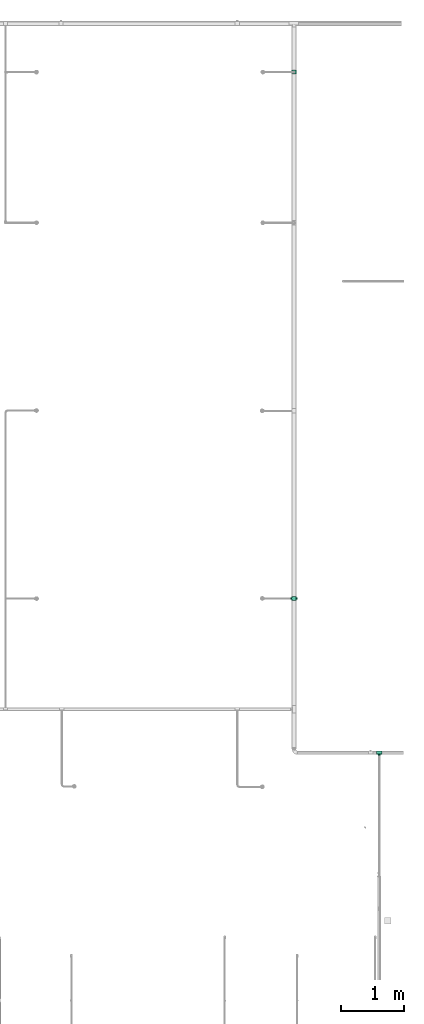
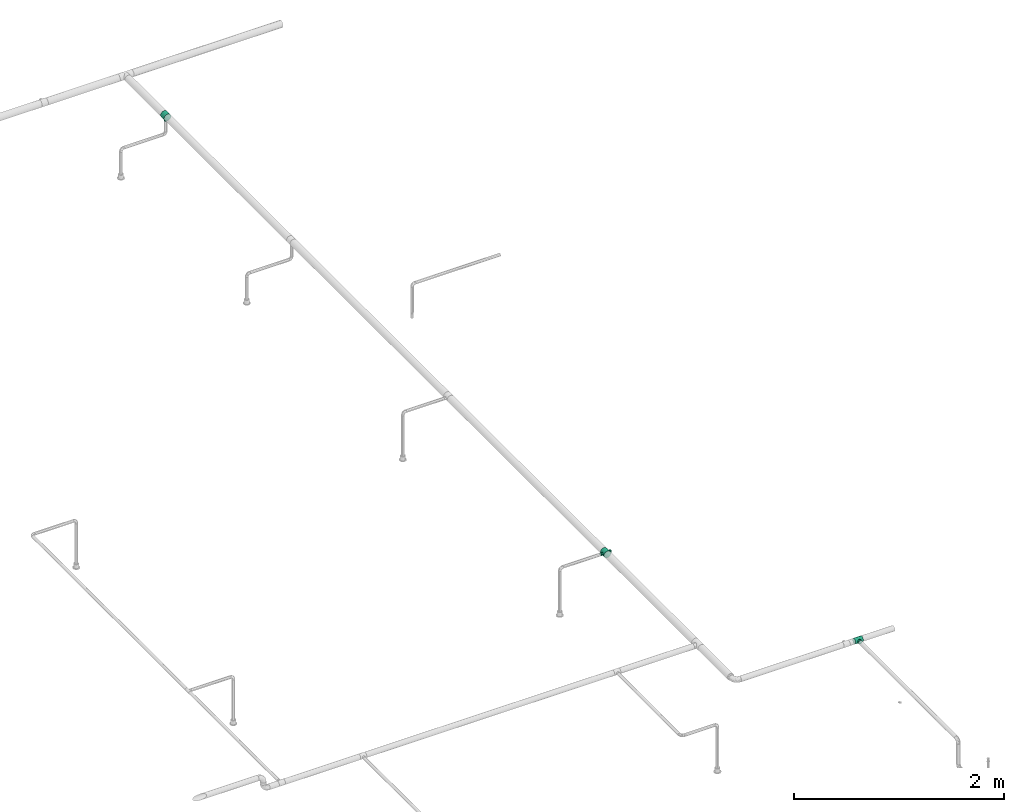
# One storey, part 88 of 95: 3 flow fittings.
"""IFC2X3 building model written with IfcOpenShell, lengths in millimetres."""

from ifc_helpers import new_model, entity, si_unit, converted_unit, derived_unit, direction, frame, origin_with_axes, place, context, subcontext, project, spatial, open_shell, surface_model, source, transform, mapped, type_object, element, save


model = new_model("IFC2X3")

# Units and contexts
model_context = context("Model", 3, precision=0.01, world=frame((0.0, 4.29681676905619e-09, 0.0)), true_north=direction((4.01073788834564e-13, 1.0)))
plan_context = context("Plan", 3, precision=0.01, world=frame((0.0, 4.29681676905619e-09, 0.0)), true_north=direction((4.01073788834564e-13, 1.0)))
body_context = subcontext(model_context, "Body", "Model", "MODEL_VIEW")
ifc_project = project(units=[converted_unit("PLANEANGLEUNIT", "DEGREE", entity("IfcPositiveLengthMeasure", 0.0174532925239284), si_unit("PLANEANGLEUNIT", "RADIAN"), dimensions=[0, 0, 0, 0, 0, 0, 0]), si_unit("AREAUNIT", "SQUARE_METRE"), si_unit("LENGTHUNIT", "METRE", prefix="MILLI"), si_unit("MASSUNIT", "GRAM", prefix="KILO"), si_unit("POWERUNIT", "WATT"), si_unit("PRESSUREUNIT", "PASCAL"), si_unit("FORCEUNIT", "NEWTON", prefix="KILO"), si_unit("ELECTRICVOLTAGEUNIT", "VOLT"), si_unit("ELECTRICCURRENTUNIT", "AMPERE"), si_unit("THERMODYNAMICTEMPERATUREUNIT", "DEGREE_CELSIUS"), si_unit("TIMEUNIT", "SECOND"), si_unit("VOLUMEUNIT", "CUBIC_METRE"), derived_unit("LINEARVELOCITYUNIT", [(si_unit("LENGTHUNIT", "METRE"), 1), (si_unit("TIMEUNIT", "SECOND"), -1)]), derived_unit("VOLUMETRICFLOWRATEUNIT", [(si_unit("VOLUMEUNIT", "CUBIC_METRE"), 1), (si_unit("TIMEUNIT", "SECOND"), -1)]), derived_unit("THERMALTRANSMITTANCEUNIT", [(si_unit("POWERUNIT", "WATT"), 1), (si_unit("THERMODYNAMICTEMPERATUREUNIT", "KELVIN"), -1), (si_unit("AREAUNIT", "SQUARE_METRE"), -1)]), derived_unit("SOUNDPRESSUREUNIT", [(si_unit("PRESSUREUNIT", "PASCAL"), 1)])], contexts=[model_context, plan_context])

# Site, building, storey
site_placement = place(None, frame((0.0, -4.29681676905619e-09, 0.0), z_axis=(0.0, 0.0, 1.0), x_axis=(1.0, 0.0, 0.0)))
site = spatial("IfcSite", under=ifc_project, at=site_placement, CompositionType="ELEMENT")
building_placement = place(site_placement, frame((0.0, 4.29681676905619e-09, 0.0), z_axis=(0.0, 0.0, 1.0), x_axis=(1.0, 0.0, 0.0)))
building = spatial("IfcBuilding", under=site, at=building_placement, Name="mc-building", CompositionType="ELEMENT")
storey_placement = place(building_placement, frame((0.0, 0.0, 210900.0), z_axis=(0.0, 0.0, 1.0), x_axis=(1.0, 0.0, 0.0)))
storey = spatial("IfcBuildingStorey", under=building, at=storey_placement, Name="Nivå F", CompositionType="ELEMENT", Elevation=210900.0)

# Flow fittings
pipe_fitting_type_1 = type_object("IfcPipeFittingType", Name="magi_pipe_fe_tee_centric_90_NOR", PredefinedType="JUNCTION")
shared_shape_1 = source(origin_with_axes(), body_context, "Body", "SurfaceModel", [
    surface_model("IfcShellBasedSurfaceModel", [(33.8, 37.45089, 4.9305), (33.8, 38.1, 0.0), (16.9, 38.1, 0.0), (-33.8, 37.45089, 4.9305), (-16.9, 38.1, 0.0), (-33.8, 38.1, 0.0), (-33.8, -26.94077, -26.94077), (-33.8, -19.05, -32.99557), (33.8, -19.05, -32.99557), (-33.8, -36.80177, -9.86101), (-33.8, 0.0, -38.1), (-33.8, -9.86101, -36.80177), (-33.8, -32.99557, -19.05), (-33.8, 9.86101, -36.80177), (-33.8, 26.94077, -26.94077), (-33.8, 19.05, -32.99557), (-33.8, 32.99557, -19.05), (-33.8, 36.80177, -9.86101), (-33.8, -19.05, 32.99557), (-33.8, -36.80177, 9.86101), (-33.8, -32.99557, 19.05), (-33.8, 0.0, 38.1), (-33.8, -26.94077, 26.94077), (-33.8, -9.86101, 36.80177), (-33.8, 32.99557, 19.05), (-33.8, 26.94077, 26.94077), (-33.8, 36.80177, 9.86101), (-33.8, 19.05, 32.99557), (-33.8, 9.86101, 36.80177), (-33.8, -38.1, 0.0), (33.8, -9.86101, -36.80177), (33.8, 0.0, -38.1), (33.8, -26.94077, -26.94077), (33.8, -36.80177, -9.86101), (33.8, -32.99557, -19.05), (33.8, -19.05, 32.99557), (33.8, 19.05, -32.99557), (33.8, 26.94077, -26.94077), (33.8, 9.86101, -36.80177), (33.8, 36.80177, -9.86101), (33.8, 32.99557, -19.05), (33.8, -32.99557, 19.05), (33.8, -36.80177, 9.86101), (33.8, 0.0, 38.1), (33.8, -26.94077, 26.94077), (33.8, -9.86101, 36.80177), (33.8, 32.99557, 19.05), (33.8, 26.94077, 26.94077), (33.8, 36.80177, 9.86101), (33.8, 9.86101, 36.80177), (33.8, 19.05, 32.99557), (33.8, -38.1, 0.0), (15.86072, 37.65053, 5.83504), (12.92726, 36.51183, 10.88559), (2.96752, 34.27545, 16.63742), (-15.8612, 37.65073, 5.83372), (33.8, 34.89867, 14.4555), (8.48894, 35.18611, 14.61328), (-12.9317, 36.51341, 10.88031), (-2.97221, 34.27585, 16.63658), (-8.4904, 35.18646, 14.61243), (-33.8, 34.89867, 14.4555), (33.8, 37.45089, -4.9305), (15.86072, 37.65053, -5.83504), (-15.8612, 37.65073, -5.83372), (-33.8, 37.45089, -4.9305), (33.8, 34.89867, -14.4555), (8.48894, 35.18611, -14.61328), (2.96752, 34.27545, -16.63742), (-8.4904, 35.18646, -14.61243), (-33.8, 34.89867, -14.4555), (-12.9317, 36.51341, -10.88031), (12.92726, 36.51183, -10.88559), (-2.97221, 34.27585, -16.63658), (0.0, 57.15, -16.9), (-16.9, 57.15, 0.0), (4.37404, 57.15, -16.32415), (8.45, 57.15, -14.63583), (14.63583, 57.15, -8.45), (16.32415, 57.15, -4.37404), (11.9501, 57.15, -11.9501), (16.9, 57.15, 0.0), (-11.9501, 57.15, -11.9501), (-14.63583, 57.15, -8.45), (-8.45, 57.15, -14.63583), (-4.37404, 57.15, -16.32415), (-16.32415, 57.15, -4.37404), (16.32415, 57.15, 4.37404), (8.45, 57.15, 14.63583), (14.63583, 57.15, 8.45), (-8.45, 57.15, 14.63583), (11.9501, 57.15, 11.9501), (4.37404, 57.15, 16.32415), (-14.63583, 57.15, 8.45), (-11.9501, 57.15, 11.9501), (-16.32415, 57.15, 4.37404), (-4.37404, 57.15, 16.32415), (0.0, 57.15, 16.9), (-16.3806, 37.87537, 2.91686), (-5.7313, 34.73116, 15.62451), (-0.00235, 34.27565, 16.637), (5.72823, 34.73078, 15.62535), (16.38036, 37.87526, 2.91752), (16.38036, 37.87526, -2.91752), (5.72823, 34.73078, -15.62535), (-0.00235, 34.27565, -16.637), (-5.7313, 34.73116, -15.62451), (-16.3806, 37.87537, -2.91686)], [open_shell([[[0, 1, 2]], [[3, 4, 5]], [[6, 7, 8]], [[9, 10, 11]], [[9, 11, 7]], [[6, 12, 9]], [[6, 9, 7]], [[10, 9, 5]], [[13, 14, 15]], [[13, 10, 14]], [[16, 5, 17]], [[5, 16, 14]], [[10, 5, 14]], [[9, 18, 5]], [[9, 19, 18]], [[18, 19, 20]], [[18, 21, 5]], [[18, 20, 22]], [[21, 18, 23]], [[24, 21, 25]], [[26, 5, 24]], [[27, 21, 28]], [[21, 27, 25]], [[21, 24, 5]], [[19, 9, 29]], [[8, 30, 31]], [[32, 8, 31]], [[33, 34, 32]], [[1, 32, 31]], [[32, 1, 35]], [[36, 37, 38]], [[1, 38, 37]], [[39, 1, 40]], [[37, 40, 1]], [[1, 31, 38]], [[35, 33, 32]], [[33, 41, 42]], [[35, 41, 33]], [[1, 43, 35]], [[44, 41, 35]], [[45, 35, 43]], [[46, 47, 1]], [[46, 1, 48]], [[49, 43, 50]], [[1, 47, 50]], [[50, 43, 1]], [[51, 33, 42]], [[52, 48, 0]], [[52, 53, 48]], [[54, 47, 46]], [[3, 26, 55]], [[53, 56, 48]], [[46, 57, 54]], [[54, 25, 47]], [[46, 56, 57]], [[57, 56, 53]], [[4, 3, 55]], [[26, 58, 55]], [[24, 59, 60]], [[61, 24, 60]], [[61, 58, 26]], [[25, 59, 24]], [[60, 58, 61]], [[25, 54, 59]], [[52, 0, 2]], [[25, 27, 47]], [[43, 49, 21]], [[49, 50, 28]], [[45, 43, 23]], [[19, 42, 41]], [[44, 35, 22]], [[41, 44, 20]], [[18, 35, 45]], [[51, 42, 29]], [[28, 50, 27]], [[21, 49, 28]], [[43, 21, 23]], [[23, 18, 45]], [[22, 35, 18]], [[44, 22, 20]], [[41, 20, 19]], [[19, 29, 42]], [[47, 27, 50]], [[33, 51, 29]], [[9, 34, 33]], [[62, 39, 63]], [[34, 12, 32]], [[38, 31, 13]], [[30, 8, 11]], [[64, 65, 4]], [[30, 10, 31]], [[15, 36, 38]], [[6, 8, 32]], [[66, 40, 67]], [[34, 9, 12]], [[9, 33, 29]], [[12, 6, 32]], [[11, 8, 7]], [[10, 30, 11]], [[31, 10, 13]], [[13, 15, 38]], [[15, 14, 36]], [[68, 40, 37]], [[69, 70, 71]], [[40, 68, 67]], [[66, 72, 39]], [[14, 68, 37]], [[62, 2, 1]], [[39, 72, 63]], [[2, 62, 63]], [[66, 67, 72]], [[16, 69, 73]], [[73, 14, 16]], [[16, 70, 69]], [[68, 14, 73]], [[17, 64, 71]], [[17, 65, 64]], [[5, 4, 65]], [[71, 70, 17]], [[36, 14, 37]], [[74, 75, 76]], [[77, 76, 78]], [[76, 79, 78]], [[80, 77, 78]], [[76, 75, 81]], [[82, 83, 84]], [[74, 85, 84]], [[86, 75, 83]], [[84, 83, 75]], [[84, 75, 74]], [[81, 79, 76]], [[87, 81, 88]], [[89, 87, 88]], [[90, 88, 81]], [[91, 89, 88]], [[92, 88, 90]], [[93, 94, 95]], [[90, 95, 94]], [[96, 97, 90]], [[90, 75, 95]], [[90, 97, 92]], [[81, 75, 90]], [[75, 98, 95]], [[94, 93, 58]], [[55, 93, 95]], [[60, 90, 94]], [[75, 4, 98]], [[58, 93, 55]], [[99, 59, 96]], [[94, 58, 60]], [[100, 54, 97]], [[92, 101, 88]], [[96, 90, 99]], [[90, 60, 99]], [[98, 55, 95]], [[97, 54, 92]], [[87, 89, 52]], [[2, 81, 102]], [[87, 52, 102]], [[53, 89, 91]], [[96, 59, 97]], [[92, 54, 101]], [[101, 57, 88]], [[57, 91, 88]], [[53, 91, 57]], [[52, 89, 53]], [[87, 102, 81]], [[97, 59, 100]], [[81, 103, 79]], [[80, 78, 72]], [[63, 78, 79]], [[67, 77, 80]], [[81, 2, 103]], [[72, 78, 63]], [[104, 68, 76]], [[80, 72, 67]], [[105, 73, 74]], [[85, 106, 84]], [[4, 75, 107]], [[76, 77, 104]], [[77, 67, 104]], [[82, 84, 69]], [[103, 63, 79]], [[86, 83, 64]], [[86, 64, 107]], [[82, 71, 83]], [[76, 68, 74]], [[73, 106, 85]], [[85, 74, 73]], [[84, 106, 69]], [[71, 82, 69]], [[64, 83, 71]], [[86, 107, 75]], [[74, 68, 105]]])]),
])
flow_fitting_1_placement = place(storey_placement, frame((534602.7875, 461000.75899, 4310.0), z_axis=(-1.0, 0.0, 0.0), x_axis=(0.0, 1.0, 0.0)))
element("IfcFlowFitting", 1, at=flow_fitting_1_placement, inside=storey, type_object=pipe_fitting_type_1, Name="magi_pipe_fe_tee_centric_90_NOR", context=body_context, shape_type="MappedRepresentation", body=[
    mapped(shared_shape_1, transform((0.0, 0.0, 0.0), scale=1.0)),
])
shared_shape_2 = source(origin_with_axes(), body_context, "Body", "SurfaceModel", [
    surface_model("IfcShellBasedSurfaceModel", [(-42.4, 15.1, -26.15397), (-42.4, 7.81634, -29.17096), (-42.4, 0.0, -30.2), (-42.4, 29.17096, -7.81634), (-42.4, 26.15397, -15.1), (-42.4, 21.35462, -21.35462), (-42.4, 30.2, 0.0), (-42.4, -30.2, 0.0), (-42.4, -15.1, -26.15397), (-42.4, -21.35462, -21.35462), (-42.4, -7.81634, -29.17096), (-42.4, -26.15397, -15.1), (-42.4, -29.17096, -7.81634), (-42.4, 26.15397, 15.1), (-42.4, 29.17096, 7.81634), (-42.4, 15.1, 26.15397), (-42.4, -21.35462, 21.35462), (-42.4, 21.35462, 21.35462), (-42.4, 7.81634, 29.17096), (-42.4, -29.17096, 7.81634), (-42.4, -26.15397, 15.1), (-42.4, -15.1, 26.15397), (-42.4, -7.81634, 29.17096), (-42.4, 0.0, 30.2), (42.4, 29.17096, -7.81634), (42.4, 0.0, -30.2), (42.4, 7.81634, -29.17096), (42.4, 21.35462, -21.35462), (42.4, 15.1, -26.15397), (42.4, 26.15397, -15.1), (42.4, -15.1, -26.15397), (42.4, -29.17096, -7.81634), (42.4, -21.35462, -21.35462), (42.4, -7.81634, -29.17096), (42.4, -26.15397, -15.1), (42.4, -30.2, 0.0), (42.4, 30.2, 0.0), (42.4, 29.17096, 7.81634), (42.4, 26.15397, 15.1), (42.4, -15.1, 26.15397), (42.4, 15.1, 26.15397), (42.4, 7.81634, 29.17096), (42.4, 21.35462, 21.35462), (42.4, 0.0, 30.2), (42.4, -26.15397, 15.1), (42.4, -29.17096, 7.81634), (42.4, -21.35462, 21.35462), (42.4, -7.81634, 29.17096), (19.84181, -29.26256, 7.46609), (21.2, -30.2, 0.0), (16.14301, -26.89232, 13.74202), (42.4, -23.7543, 18.22731), (10.69837, -24.02197, 18.30259), (3.8093, -21.84287, 20.85496), (-3.8158, -21.844, 20.85377), (-10.70022, -24.0228, 18.30151), (-42.4, -23.7543, 18.22731), (-21.2, -30.2, 0.0), (-19.84258, -29.26308, 7.46405), (-16.14727, -26.89488, 13.73701), (3.8093, -21.84287, -20.85496), (42.4, -23.7543, -18.22731), (10.69837, -24.02197, -18.30259), (-10.70022, -24.0228, -18.30151), (-42.4, -23.7543, -18.22731), (16.14301, -26.89232, -13.74202), (-3.8158, -21.844, -20.85377), (19.84181, -29.26256, -7.46609), (-16.14727, -26.89488, -13.73701), (-19.84258, -29.26308, -7.46405), (14.99066, -45.3, -14.99066), (0.0, -45.3, -21.2), (5.48696, -45.3, -20.47763), (10.6, -45.3, -18.35974), (18.35974, -45.3, -10.6), (20.47763, -45.3, -5.48696), (-21.2, -45.3, 0.0), (-10.6, -45.3, 18.35974), (-5.48696, -45.3, -20.47763), (-14.99066, -45.3, -14.99066), (-10.6, -45.3, -18.35974), (-18.35974, -45.3, -10.6), (-20.47763, -45.3, -5.48696), (20.47763, -45.3, 5.48696), (18.35974, -45.3, 10.6), (10.6, -45.3, 18.35974), (14.99066, -45.3, 14.99066), (0.0, -45.3, 21.2), (5.48696, -45.3, 20.47763), (-14.99066, -45.3, 14.99066), (-18.35974, -45.3, 10.6), (-20.47763, -45.3, 5.48696), (-5.48696, -45.3, 20.47763), (21.2, -45.3, 0.0), (-20.52129, -29.73154, 3.73203), (-0.00325, -21.84343, 20.85436), (20.52091, -29.73128, 3.73304), (20.52091, -29.73128, -3.73304), (-0.00325, -21.84343, -20.85436), (-20.52129, -29.73154, -3.73203)], [open_shell([[[0, 1, 2]], [[3, 0, 2]], [[0, 3, 4]], [[5, 0, 4]], [[6, 2, 7]], [[8, 9, 10]], [[9, 2, 10]], [[11, 12, 9]], [[7, 9, 12]], [[9, 7, 2]], [[6, 3, 2]], [[13, 14, 6]], [[7, 15, 13]], [[7, 16, 15]], [[17, 13, 15]], [[18, 15, 16]], [[19, 20, 7]], [[7, 20, 16]], [[21, 22, 16]], [[23, 16, 22]], [[16, 23, 18]], [[7, 13, 6]], [[24, 25, 26]], [[27, 26, 28]], [[27, 29, 24]], [[27, 24, 26]], [[25, 24, 30]], [[30, 31, 32]], [[30, 33, 25]], [[32, 31, 34]], [[31, 30, 35]], [[24, 35, 30]], [[24, 36, 35]], [[36, 37, 38]], [[39, 36, 38]], [[40, 41, 38]], [[40, 38, 42]], [[43, 38, 41]], [[35, 44, 45]], [[46, 44, 35]], [[39, 43, 47]], [[46, 36, 39]], [[38, 43, 39]], [[46, 35, 36]], [[35, 45, 48]], [[48, 49, 35]], [[45, 50, 48]], [[51, 46, 52]], [[52, 50, 44]], [[53, 52, 46]], [[54, 53, 21]], [[44, 50, 45]], [[55, 16, 56]], [[57, 58, 7]], [[19, 7, 58]], [[58, 59, 19]], [[55, 54, 16]], [[55, 20, 59]], [[20, 55, 56]], [[59, 20, 19]], [[16, 54, 21]], [[52, 44, 51]], [[53, 46, 39]], [[23, 47, 43]], [[22, 39, 47]], [[18, 43, 41]], [[38, 37, 14]], [[17, 40, 42]], [[13, 42, 38]], [[41, 40, 15]], [[6, 37, 36]], [[21, 39, 22]], [[22, 47, 23]], [[18, 23, 43]], [[41, 15, 18]], [[15, 40, 17]], [[13, 17, 42]], [[14, 13, 38]], [[37, 6, 14]], [[39, 21, 53]], [[4, 24, 29]], [[3, 36, 24]], [[5, 29, 27]], [[25, 33, 10]], [[1, 28, 26]], [[2, 26, 25]], [[27, 28, 0]], [[8, 33, 30]], [[6, 36, 3]], [[3, 24, 4]], [[5, 4, 29]], [[27, 0, 5]], [[0, 28, 1]], [[2, 1, 26]], [[10, 2, 25]], [[33, 8, 10]], [[30, 60, 8]], [[61, 34, 62]], [[63, 11, 64]], [[62, 60, 32]], [[34, 65, 62]], [[66, 8, 60]], [[31, 35, 67]], [[67, 65, 31]], [[49, 67, 35]], [[31, 65, 34]], [[66, 63, 9]], [[62, 32, 61]], [[64, 9, 63]], [[63, 68, 11]], [[9, 8, 66]], [[68, 69, 12]], [[69, 7, 12]], [[7, 69, 57]], [[68, 12, 11]], [[60, 30, 32]], [[70, 71, 72]], [[70, 72, 73]], [[70, 74, 75]], [[70, 75, 71]], [[76, 71, 77]], [[78, 79, 80]], [[78, 71, 79]], [[81, 76, 82]], [[79, 71, 81]], [[71, 76, 81]], [[71, 75, 77]], [[83, 84, 75]], [[84, 85, 75]], [[85, 77, 75]], [[85, 84, 86]], [[87, 85, 88]], [[76, 89, 90]], [[91, 76, 90]], [[77, 87, 92]], [[77, 89, 76]], [[85, 87, 77]], [[75, 93, 83]], [[91, 94, 76]], [[59, 90, 89]], [[91, 90, 58]], [[89, 77, 55]], [[94, 57, 76]], [[58, 90, 59]], [[55, 92, 54]], [[55, 59, 89]], [[87, 53, 95]], [[55, 77, 92]], [[87, 88, 53]], [[96, 48, 83]], [[52, 88, 85]], [[48, 84, 83]], [[96, 93, 49]], [[87, 54, 92]], [[91, 58, 94]], [[88, 52, 53]], [[52, 85, 86]], [[52, 86, 50]], [[50, 86, 84]], [[50, 84, 48]], [[93, 96, 83]], [[95, 54, 87]], [[75, 97, 93]], [[65, 74, 70]], [[75, 74, 67]], [[70, 73, 62]], [[97, 49, 93]], [[67, 74, 65]], [[62, 72, 60]], [[62, 65, 70]], [[71, 66, 98]], [[62, 73, 72]], [[99, 76, 57]], [[99, 69, 82]], [[63, 80, 79]], [[75, 67, 97]], [[69, 81, 82]], [[81, 68, 79]], [[71, 60, 72]], [[66, 78, 63]], [[66, 71, 78]], [[78, 80, 63]], [[63, 79, 68]], [[68, 81, 69]], [[76, 99, 82]], [[98, 60, 71]]])]),
])
flow_fitting_2_placement = place(storey_placement, frame((535962.24677, 450142.9624, 4310.0), z_axis=(0.0, 0.0, 1.0), x_axis=(1.0, 0.0, 0.0)))
element("IfcFlowFitting", 2, at=flow_fitting_2_placement, inside=storey, type_object=pipe_fitting_type_1, Name="magi_pipe_fe_tee_centric_90_NOR", context=body_context, shape_type="MappedRepresentation", body=[
    mapped(shared_shape_2, transform((0.0, 0.0, 0.0), scale=1.0)),
])
pipe_fitting_type_2 = type_object("IfcPipeFittingType", Name="magi_pipe_fe_cross_centric_90_001", PredefinedType="JUNCTION")
shared_shape_3 = source(origin_with_axes(), body_context, "Body", "SurfaceModel", [
    surface_model("IfcShellBasedSurfaceModel", [(-33.8, 9.86101, -36.80177), (-33.8, 0.0, -38.1), (-33.8, 36.80177, -9.86101), (-33.8, 19.05, -32.99557), (-33.8, 32.99557, -19.05), (-33.8, 26.94077, -26.94077), (-33.8, -38.1, 0.0), (-33.8, -19.05, -32.99557), (-33.8, -26.94077, -26.94077), (-33.8, -9.86101, -36.80177), (-33.8, -32.99557, -19.05), (-33.8, -36.80177, -9.86101), (-33.8, 38.1, 0.0), (-33.8, 32.99557, 19.05), (-33.8, 36.80177, 9.86101), (-33.8, -36.80177, 9.86101), (-33.8, 19.05, 32.99557), (-33.8, 26.94077, 26.94077), (-33.8, 9.86101, 36.80177), (-33.8, 0.0, 38.1), (-33.8, -26.94077, 26.94077), (-33.8, -32.99557, 19.05), (-33.8, -9.86101, 36.80177), (-33.8, -19.05, 32.99557), (33.8, 0.0, -38.1), (33.8, 9.86101, -36.80177), (33.8, 19.05, -32.99557), (33.8, 26.94077, -26.94077), (33.8, 32.99557, -19.05), (33.8, 36.80177, -9.86101), (33.8, -38.1, 0.0), (33.8, -9.86101, -36.80177), (33.8, -26.94077, -26.94077), (33.8, -19.05, -32.99557), (33.8, -32.99557, -19.05), (33.8, -36.80177, -9.86101), (33.8, 36.80177, 9.86101), (33.8, 32.99557, 19.05), (33.8, 19.05, 32.99557), (33.8, 0.0, 38.1), (33.8, 26.94077, 26.94077), (33.8, 9.86101, 36.80177), (33.8, -26.94077, 26.94077), (33.8, -32.99557, 19.05), (33.8, -36.80177, 9.86101), (33.8, -19.05, 32.99557), (33.8, -9.86101, 36.80177), (33.8, 38.1, 0.0), (33.8, -37.45089, 4.9305), (15.86072, -37.65053, 5.83504), (16.9, -38.1, 0.0), (-8.4904, -35.18646, 14.61243), (-33.8, -34.89867, 14.4555), (-15.8612, -37.65073, 5.83372), (-12.9317, -36.51341, 10.88031), (12.92726, -36.51183, 10.88559), (33.8, -34.89867, 14.4555), (8.48894, -35.18611, 14.61328), (-2.97221, -34.27585, 16.63658), (2.96752, -34.27545, 16.63742), (-33.8, -37.45089, 4.9305), (-16.9, -38.1, 0.0), (-33.8, -37.45089, -4.9305), (-15.8612, -37.65073, -5.83372), (15.86072, -37.65053, -5.83504), (33.8, -37.45089, -4.9305), (-12.9317, -36.51341, -10.88031), (-33.8, -34.89867, -14.4555), (-8.4904, -35.18646, -14.61243), (8.48894, -35.18611, -14.61328), (33.8, -34.89867, -14.4555), (2.96752, -34.27545, -16.63742), (12.92726, -36.51183, -10.88559), (-2.97221, -34.27585, -16.63658), (4.37404, -57.15, -16.32415), (-16.9, -57.15, 0.0), (0.0, -57.15, -16.9), (14.63583, -57.15, -8.45), (8.45, -57.15, -14.63583), (16.32415, -57.15, -4.37404), (11.9501, -57.15, -11.9501), (-11.9501, -57.15, -11.9501), (-8.45, -57.15, -14.63583), (-4.37404, -57.15, -16.32415), (-14.63583, -57.15, -8.45), (-16.32415, -57.15, -4.37404), (16.9, -57.15, 0.0), (8.45, -57.15, 14.63583), (16.32415, -57.15, 4.37404), (14.63583, -57.15, 8.45), (-8.45, -57.15, 14.63583), (11.9501, -57.15, 11.9501), (4.37404, -57.15, 16.32415), (-16.32415, -57.15, 4.37404), (-11.9501, -57.15, 11.9501), (-14.63583, -57.15, 8.45), (0.0, -57.15, 16.9), (-4.37404, -57.15, 16.32415), (-16.3806, -37.87537, 2.91686), (-5.7313, -34.73116, 15.62451), (-0.00235, -34.27565, 16.637), (5.72823, -34.73078, 15.62535), (16.38036, -37.87526, 2.91752), (16.38036, -37.87526, -2.91752), (5.72823, -34.73078, -15.62535), (-0.00235, -34.27565, -16.637), (-5.7313, -34.73116, -15.62451), (-16.3806, -37.87537, -2.91686), (15.8612, 37.65073, 5.83372), (33.8, 37.45089, 4.9305), (2.97221, 34.27585, 16.63658), (16.9, 38.1, 0.0), (8.4904, 35.18646, 14.61243), (33.8, 34.89867, 14.4555), (12.9317, 36.51341, 10.88031), (-2.96752, 34.27545, 16.63742), (-16.9, 38.1, 0.0), (-33.8, 37.45089, 4.9305), (-15.86072, 37.65053, 5.83504), (-8.48894, 35.18611, 14.61328), (-12.92726, 36.51183, 10.88559), (-33.8, 34.89867, 14.4555), (33.8, 37.45089, -4.9305), (15.8612, 37.65073, -5.83372), (12.9317, 36.51341, -10.88031), (33.8, 34.89867, -14.4555), (2.97221, 34.27585, -16.63658), (8.4904, 35.18646, -14.61243), (-2.96752, 34.27545, -16.63742), (-8.48894, 35.18611, -14.61328), (-33.8, 34.89867, -14.4555), (-12.92726, 36.51183, -10.88559), (-15.86072, 37.65053, -5.83504), (-33.8, 37.45089, -4.9305), (-4.37404, 57.15, -16.32415), (16.9, 57.15, 0.0), (0.0, 57.15, -16.9), (-14.63583, 57.15, -8.45), (-8.45, 57.15, -14.63583), (-16.32415, 57.15, -4.37404), (-11.9501, 57.15, -11.9501), (-8.45, 57.15, 14.63583), (8.45, 57.15, -14.63583), (4.37404, 57.15, -16.32415), (11.9501, 57.15, -11.9501), (14.63583, 57.15, -8.45), (16.32415, 57.15, -4.37404), (-16.32415, 57.15, 4.37404), (-14.63583, 57.15, 8.45), (16.32415, 57.15, 4.37404), (-11.9501, 57.15, 11.9501), (0.0, 57.15, 16.9), (-4.37404, 57.15, 16.32415), (11.9501, 57.15, 11.9501), (14.63583, 57.15, 8.45), (8.45, 57.15, 14.63583), (4.37404, 57.15, 16.32415), (-16.9, 57.15, 0.0), (16.3806, 37.87537, 2.91686), (5.7313, 34.73116, 15.62451), (0.00235, 34.27565, 16.637), (-5.72823, 34.73078, 15.62535), (-16.38036, 37.87526, 2.91752), (-16.38036, 37.87526, -2.91752), (-5.72823, 34.73078, -15.62535), (0.00235, 34.27565, -16.637), (5.7313, 34.73116, -15.62451), (16.3806, 37.87537, -2.91686)], [open_shell([[[0, 1, 2]], [[3, 0, 2]], [[2, 4, 5]], [[3, 2, 5]], [[6, 2, 1]], [[7, 8, 9]], [[8, 1, 9]], [[10, 11, 8]], [[6, 8, 11]], [[8, 6, 1]], [[6, 12, 2]], [[13, 14, 12]], [[15, 13, 6]], [[16, 13, 15]], [[17, 13, 16]], [[18, 16, 19]], [[20, 19, 21]], [[16, 15, 21]], [[22, 19, 23]], [[20, 23, 19]], [[21, 19, 16]], [[12, 6, 13]], [[24, 25, 26]], [[24, 26, 27]], [[27, 28, 29]], [[24, 27, 30]], [[30, 27, 29]], [[31, 32, 33]], [[31, 24, 32]], [[34, 30, 35]], [[30, 34, 32]], [[24, 30, 32]], [[29, 36, 30]], [[36, 37, 30]], [[30, 37, 38]], [[38, 39, 30]], [[38, 37, 40]], [[39, 38, 41]], [[30, 42, 43]], [[44, 30, 43]], [[45, 39, 46]], [[45, 42, 30]], [[30, 39, 45]], [[36, 29, 47]], [[48, 44, 49]], [[50, 30, 48]], [[50, 48, 49]], [[51, 21, 52]], [[53, 54, 15]], [[55, 56, 57]], [[58, 59, 20]], [[53, 15, 60]], [[41, 38, 16]], [[45, 23, 42]], [[61, 62, 63]], [[64, 35, 65]], [[31, 33, 7]], [[66, 67, 68]], [[3, 26, 0]], [[26, 3, 5]], [[69, 34, 70]], [[32, 71, 8]], [[64, 72, 35]], [[73, 68, 10]], [[68, 67, 10]], [[66, 63, 11]], [[63, 62, 11]], [[62, 61, 6]], [[32, 8, 33]], [[74, 75, 76]], [[77, 74, 78]], [[77, 79, 74]], [[77, 78, 80]], [[75, 74, 79]], [[76, 81, 82]], [[82, 83, 76]], [[84, 75, 85]], [[81, 76, 84]], [[75, 84, 76]], [[79, 86, 75]], [[87, 86, 88]], [[87, 88, 89]], [[90, 75, 87]], [[87, 89, 91]], [[90, 87, 92]], [[93, 94, 95]], [[94, 93, 90]], [[90, 96, 97]], [[93, 75, 90]], [[92, 96, 90]], [[87, 75, 86]], [[93, 98, 75]], [[54, 95, 94]], [[93, 95, 53]], [[94, 90, 51]], [[98, 61, 75]], [[53, 95, 54]], [[97, 58, 99]], [[51, 54, 94]], [[96, 59, 100]], [[87, 101, 92]], [[99, 90, 97]], [[99, 51, 90]], [[93, 53, 98]], [[92, 59, 96]], [[49, 89, 88]], [[102, 86, 50]], [[102, 49, 88]], [[91, 89, 55]], [[96, 58, 97]], [[101, 59, 92]], [[87, 57, 101]], [[87, 91, 57]], [[57, 91, 55]], [[55, 89, 49]], [[86, 102, 88]], [[100, 58, 96]], [[79, 103, 86]], [[72, 77, 80]], [[79, 77, 64]], [[80, 78, 69]], [[103, 50, 86]], [[64, 77, 72]], [[74, 71, 104]], [[69, 72, 80]], [[76, 73, 105]], [[82, 106, 83]], [[107, 75, 61]], [[104, 78, 74]], [[104, 69, 78]], [[68, 82, 81]], [[79, 64, 103]], [[63, 84, 85]], [[107, 63, 85]], [[84, 66, 81]], [[76, 71, 74]], [[83, 106, 73]], [[73, 76, 83]], [[68, 106, 82]], [[68, 81, 66]], [[66, 84, 63]], [[75, 107, 85]], [[105, 71, 76]], [[55, 49, 44]], [[56, 55, 44]], [[20, 59, 42]], [[57, 43, 59]], [[43, 57, 56]], [[59, 43, 42]], [[108, 36, 109]], [[45, 46, 22]], [[51, 52, 54]], [[60, 61, 53]], [[61, 60, 6]], [[52, 15, 54]], [[58, 20, 21]], [[58, 21, 51]], [[23, 20, 42]], [[45, 22, 23]], [[46, 19, 22]], [[46, 39, 19]], [[40, 17, 38]], [[41, 18, 39]], [[110, 40, 37]], [[109, 47, 111]], [[109, 111, 108]], [[112, 113, 114]], [[108, 114, 36]], [[114, 113, 36]], [[110, 37, 112]], [[18, 41, 16]], [[110, 115, 40]], [[116, 117, 118]], [[40, 115, 17]], [[17, 16, 38]], [[17, 115, 13]], [[115, 119, 13]], [[120, 121, 119]], [[120, 118, 14]], [[120, 14, 121]], [[118, 117, 14]], [[117, 116, 12]], [[112, 37, 113]], [[119, 121, 13]], [[39, 18, 19]], [[122, 29, 123]], [[111, 47, 122]], [[124, 123, 29]], [[125, 124, 29]], [[111, 122, 123]], [[5, 27, 26]], [[28, 126, 127]], [[126, 28, 27]], [[128, 126, 27]], [[26, 25, 0]], [[28, 127, 125]], [[124, 125, 127]], [[129, 130, 131]], [[132, 131, 2]], [[132, 133, 116]], [[116, 133, 12]], [[130, 2, 131]], [[27, 5, 128]], [[129, 4, 130]], [[128, 5, 4]], [[25, 1, 0]], [[128, 4, 129]], [[25, 24, 1]], [[31, 9, 24]], [[71, 32, 34]], [[65, 30, 50]], [[65, 50, 64]], [[69, 70, 72]], [[72, 70, 35]], [[71, 34, 69]], [[9, 31, 7]], [[132, 2, 133]], [[8, 71, 73]], [[8, 7, 33]], [[8, 73, 10]], [[66, 11, 67]], [[24, 9, 1]], [[134, 135, 136]], [[137, 134, 138]], [[137, 139, 134]], [[137, 138, 140]], [[141, 135, 134]], [[136, 142, 143]], [[136, 144, 142]], [[145, 135, 146]], [[144, 136, 145]], [[136, 135, 145]], [[134, 139, 141]], [[139, 147, 141]], [[141, 147, 148]], [[141, 149, 135]], [[141, 148, 150]], [[151, 141, 152]], [[149, 153, 154]], [[153, 149, 155]], [[155, 151, 156]], [[155, 149, 141]], [[141, 151, 155]], [[139, 157, 147]], [[149, 158, 135]], [[114, 154, 153]], [[149, 154, 108]], [[153, 155, 112]], [[158, 111, 135]], [[108, 154, 114]], [[156, 110, 159]], [[112, 114, 153]], [[151, 115, 160]], [[141, 161, 152]], [[159, 155, 156]], [[159, 112, 155]], [[149, 108, 158]], [[152, 115, 151]], [[118, 148, 147]], [[162, 157, 116]], [[162, 118, 147]], [[150, 148, 120]], [[151, 110, 156]], [[161, 115, 152]], [[141, 119, 161]], [[141, 150, 119]], [[119, 150, 120]], [[120, 148, 118]], [[157, 162, 147]], [[160, 110, 151]], [[139, 163, 157]], [[131, 137, 140]], [[139, 137, 132]], [[140, 138, 129]], [[163, 116, 157]], [[132, 137, 131]], [[134, 128, 164]], [[129, 131, 140]], [[136, 126, 165]], [[142, 166, 143]], [[167, 135, 111]], [[164, 138, 134]], [[164, 129, 138]], [[127, 142, 144]], [[139, 132, 163]], [[123, 145, 146]], [[167, 123, 146]], [[145, 124, 144]], [[136, 128, 134]], [[143, 166, 126]], [[126, 136, 143]], [[127, 166, 142]], [[127, 144, 124]], [[124, 145, 123]], [[135, 167, 146]], [[165, 128, 136]]])]),
])
flow_fitting_3_placement = place(storey_placement, frame((534602.7875, 452605.11719, 4310.0), z_axis=(0.0, 0.0, -1.0), x_axis=(0.0, -1.0, 0.0)))
element("IfcFlowFitting", 3, at=flow_fitting_3_placement, inside=storey, type_object=pipe_fitting_type_2, Name="magi_pipe_fe_cross_centric_90_001", context=body_context, shape_type="MappedRepresentation", body=[
    mapped(shared_shape_3, transform((0.0, 0.0, 0.0), scale=1.0)),
])

save(model, "model.ifc")
